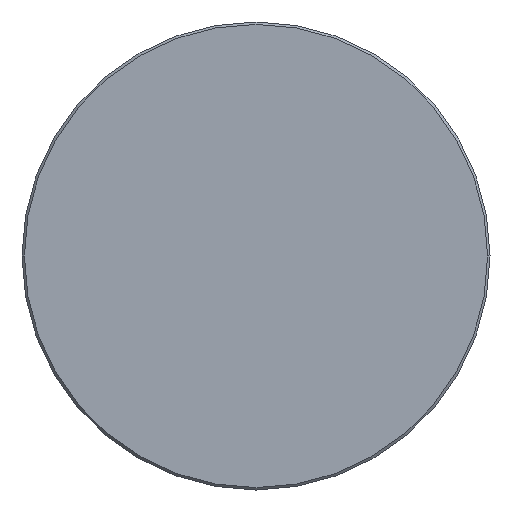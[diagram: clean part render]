
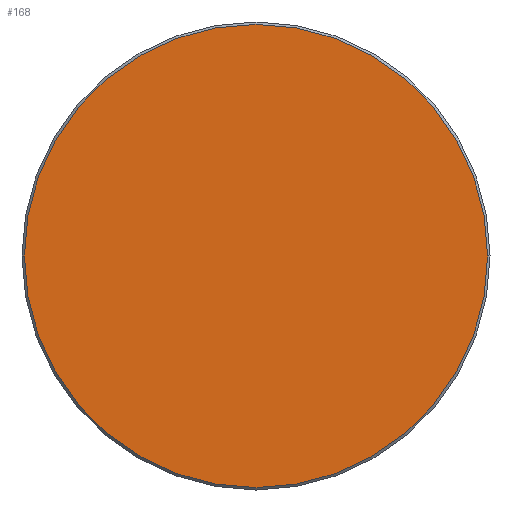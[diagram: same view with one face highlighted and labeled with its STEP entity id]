
A CAD part, left-side view. The second image highlights one B-rep face of the part: STEP entity #168.
In plain terms, the highlighted planar face has unit normal (-1, 0, 0).
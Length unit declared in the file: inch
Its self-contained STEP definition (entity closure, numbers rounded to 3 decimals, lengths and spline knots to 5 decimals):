
#13 = AXIS2_PLACEMENT_3D ( 'NONE', #214, #244, #330 ) ;
#14 = CARTESIAN_POINT ( 'NONE',  ( 0., 0., 0. ) ) ;
#21 = CARTESIAN_POINT ( 'NONE',  ( 0., 0., 0. ) ) ;
#32 = EDGE_CURVE ( 'NONE', #182, #189, #240, .T. ) ;
#49 = CIRCLE ( 'NONE', #108, 0.38662 ) ;
#78 = DIRECTION ( 'NONE',  ( 0., -1., 0. ) ) ;
#101 = PLANE ( 'NONE',  #348 ) ;
#108 = AXIS2_PLACEMENT_3D ( 'NONE', #21, #254, #78 ) ;
#112 = ORIENTED_EDGE ( 'NONE', *, *, #32, .T. ) ;
#160 = CARTESIAN_POINT ( 'NONE',  ( 0., -0.38662, 0. ) ) ;
#161 = CARTESIAN_POINT ( 'NONE',  ( 0., 0.38662, 0. ) ) ;
#168 = ADVANCED_FACE ( 'NONE', ( #223 ), #101, .T. ) ;
#182 = VERTEX_POINT ( 'NONE', #160 ) ;
#189 = VERTEX_POINT ( 'NONE', #161 ) ;
#193 = DIRECTION ( 'NONE',  ( -1., 0., 0. ) ) ;
#214 = CARTESIAN_POINT ( 'NONE',  ( 0., 0., 0. ) ) ;
#223 = FACE_OUTER_BOUND ( 'NONE', #325, .T. ) ;
#240 = CIRCLE ( 'NONE', #13, 0.38662 ) ;
#244 = DIRECTION ( 'NONE',  ( -1., 0., 0. ) ) ;
#254 = DIRECTION ( 'NONE',  ( -1., 0., 0. ) ) ;
#302 = EDGE_CURVE ( 'NONE', #189, #182, #49, .T. ) ;
#325 = EDGE_LOOP ( 'NONE', ( #366, #112 ) ) ;
#330 = DIRECTION ( 'NONE',  ( 0., -1., 0. ) ) ;
#348 = AXIS2_PLACEMENT_3D ( 'NONE', #14, #193, #367 ) ;
#366 = ORIENTED_EDGE ( 'NONE', *, *, #302, .T. ) ;
#367 = DIRECTION ( 'NONE',  ( 0., -1., 0. ) ) ;
